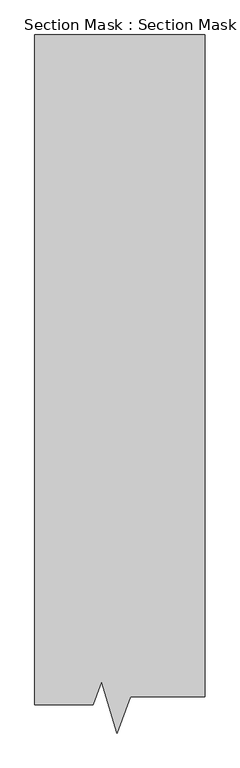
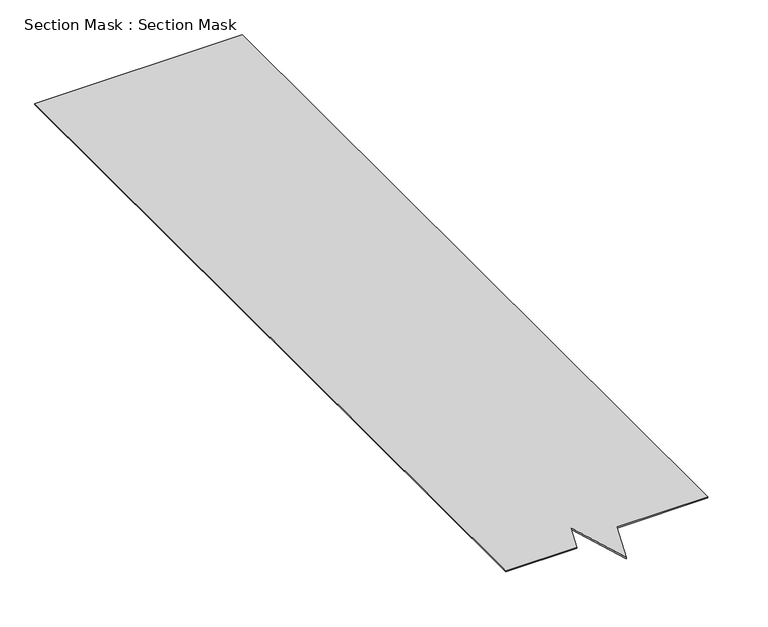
"""IFC4 building model written with IfcOpenShell, lengths in millimetres: proxy geometry, Section Mask : Section Mask."""

from ifc_helpers import new_model, si_unit, frame, origin, place, context, project, spatial, polyline, outline, extrude, source, transform, mapped, element, save


def section_mask_section_mask_d91737e5(model_context):
    return source(origin(), model_context, "Body", "SweptSolid", [
        extrude(outline(polyline([(8124.664325, 631.273934), (7964.7843793, 631.273934), (7964.7843793, 2465.4614947), (8431.4683257, 2465.4614947), (8431.4683257, 652.1224056), (8227.2982256, 652.1224056), (8190.6813689, 552.9595639), (8147.6812645, 693.6065681), (8124.664325, 631.273934)])), frame((0.0, 0.0, 45.0273345), z_axis=(0.0, 0.0, 1.0), x_axis=(1.0, 0.0, 0.0)), (0.0, 0.0, 1.0), 3.0281541),
    ])


if __name__ == "__main__":
    model = new_model("IFC4")
    model_context = context("Model", 3, world=origin())
    ifc_project = project(units=[si_unit("LENGTHUNIT", "METRE", prefix="MILLI")], contexts=[model_context])
    site = spatial("IfcSite", under=ifc_project)
    building = spatial("IfcBuilding", under=site)
    placement = place(None, origin())
    section_mask_section_mask_shape = section_mask_section_mask_d91737e5(model_context)
    element("IfcBuildingElementProxy", 1, Name="Section Mask : Section Mask", ObjectType="Section Mask : Section Mask", at=placement, inside=building, context=model_context, shape_type="MappedRepresentation", body=[
        mapped(section_mask_section_mask_shape, transform((0.0, 0.0, 0.0), x_axis=(1.0, 0.0, 0.0), y_axis=(0.0, 1.0, 0.0), z_axis=(0.0, 0.0, 1.0))),
    ])
    save(model, "model.ifc")
